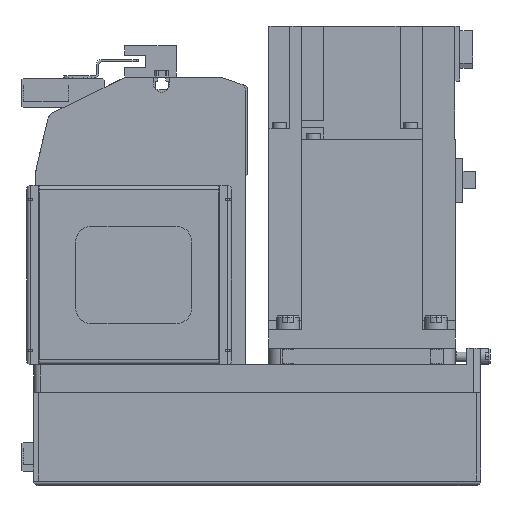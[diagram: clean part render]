
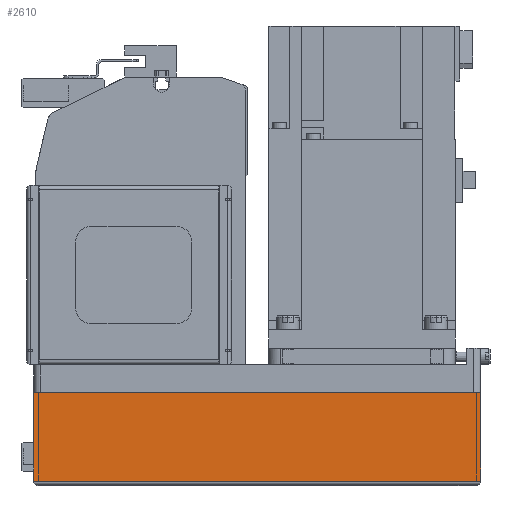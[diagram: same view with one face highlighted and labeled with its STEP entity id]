
A CAD part, left-side view. The second image highlights one B-rep face of the part: STEP entity #2610.
In plain terms, the highlighted planar face has unit normal (-1, 0, 0) as drawn and (0, 1, 0) by its records, which use the part's own axes.
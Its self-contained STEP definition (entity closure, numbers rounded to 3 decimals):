
#2610 = ADVANCED_FACE( '', ( #5731 ), #5732, .T. );
#5731 = FACE_OUTER_BOUND( '', #9287, .T. );
#5732 = PLANE( '', #9288 );
#9287 = EDGE_LOOP( '', ( #16724, #16725, #16726, #16727 ) );
#9288 = AXIS2_PLACEMENT_3D( '', #16728, #16729, #16730 );
#16724 = ORIENTED_EDGE( '', *, *, #21573, .F. );
#16725 = ORIENTED_EDGE( '', *, *, #22488, .F. );
#16726 = ORIENTED_EDGE( '', *, *, #20776, .T. );
#16727 = ORIENTED_EDGE( '', *, *, #23018, .T. );
#16728 = CARTESIAN_POINT( '', ( -192., 40., -50. ) );
#16729 = DIRECTION( '', ( 0., 1., 0. ) );
#16730 = DIRECTION( '', ( 0., 0., 1. ) );
#20776 = EDGE_CURVE( '', #25025, #25030, #25032, .T. );
#21573 = EDGE_CURVE( '', #26349, #26351, #26352, .T. );
#22488 = EDGE_CURVE( '', #25025, #26349, #27719, .T. );
#23018 = EDGE_CURVE( '', #25030, #26351, #28416, .T. );
#25025 = VERTEX_POINT( '', #31096 );
#25030 = VERTEX_POINT( '', #31103 );
#25032 = LINE( '', #31106, #31107 );
#26349 = VERTEX_POINT( '', #32932 );
#26351 = VERTEX_POINT( '', #32935 );
#26352 = LINE( '', #32936, #32937 );
#27719 = LINE( '', #35141, #35142 );
#28416 = LINE( '', #36314, #36315 );
#31096 = CARTESIAN_POINT( '', ( -192., 40., -50. ) );
#31103 = CARTESIAN_POINT( '', ( -192., 40., -12.1 ) );
#31106 = CARTESIAN_POINT( '', ( -192., 40., -50. ) );
#31107 = VECTOR( '', #38550, 1000. );
#32932 = CARTESIAN_POINT( '', ( 0., 40., -50. ) );
#32935 = CARTESIAN_POINT( '', ( 0., 40., -12.1 ) );
#32936 = CARTESIAN_POINT( '', ( 0., 40., -50. ) );
#32937 = VECTOR( '', #39642, 1000. );
#35141 = CARTESIAN_POINT( '', ( -192., 40., -50. ) );
#35142 = VECTOR( '', #40811, 1000. );
#36314 = CARTESIAN_POINT( '', ( -192., 40., -12.1 ) );
#36315 = VECTOR( '', #41329, 1000. );
#38550 = DIRECTION( '', ( 0., 0., 1. ) );
#39642 = DIRECTION( '', ( 0., 0., 1. ) );
#40811 = DIRECTION( '', ( 1., 0., 0. ) );
#41329 = DIRECTION( '', ( 1., 0., 0. ) );
